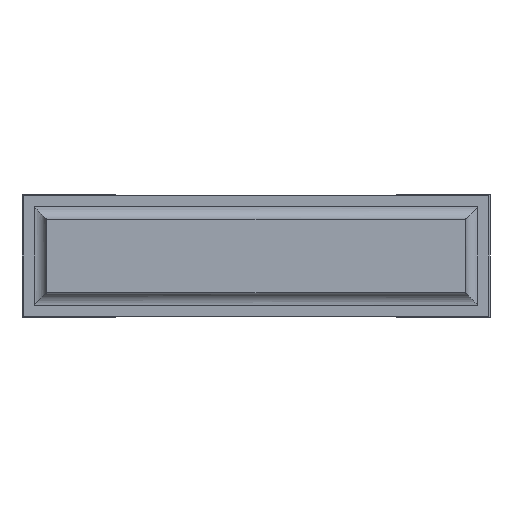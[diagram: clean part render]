
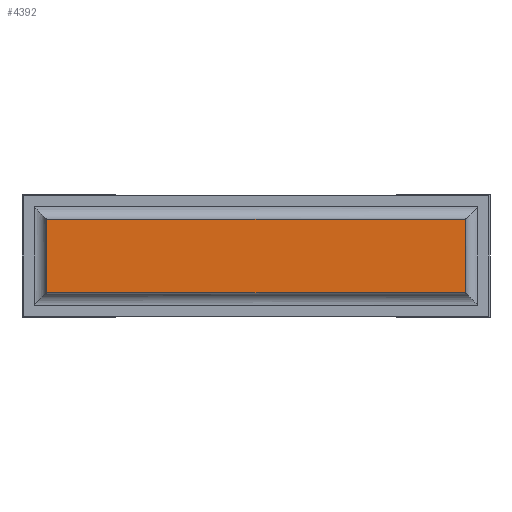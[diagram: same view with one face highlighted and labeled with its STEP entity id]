
A CAD part, front view. The second image highlights one B-rep face of the part: STEP entity #4392.
In plain terms, the highlighted planar face has unit normal (0, -1, 0).
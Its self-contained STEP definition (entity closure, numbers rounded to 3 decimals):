
#114=PLANE('',#4686);
#318=FACE_OUTER_BOUND('',#564,.T.);
#564=EDGE_LOOP('',(#3181,#3182,#3183,#3184));
#835=LINE('',#6360,#1397);
#860=LINE('',#6419,#1422);
#861=LINE('',#6421,#1423);
#862=LINE('',#6422,#1424);
#1397=VECTOR('',#5126,10.);
#1422=VECTOR('',#5179,10.);
#1423=VECTOR('',#5180,10.);
#1424=VECTOR('',#5181,10.);
#1975=VERTEX_POINT('',#6357);
#1976=VERTEX_POINT('',#6359);
#1996=VERTEX_POINT('',#6418);
#1997=VERTEX_POINT('',#6420);
#2429=EDGE_CURVE('',#1976,#1975,#835,.T.);
#2459=EDGE_CURVE('',#1975,#1996,#860,.T.);
#2460=EDGE_CURVE('',#1996,#1997,#861,.T.);
#2461=EDGE_CURVE('',#1997,#1976,#862,.T.);
#3181=ORIENTED_EDGE('',*,*,#2459,.T.);
#3182=ORIENTED_EDGE('',*,*,#2460,.T.);
#3183=ORIENTED_EDGE('',*,*,#2461,.T.);
#3184=ORIENTED_EDGE('',*,*,#2429,.T.);
#4392=ADVANCED_FACE('',(#318),#114,.T.);
#4686=AXIS2_PLACEMENT_3D('',#6417,#5177,#5178);
#5126=DIRECTION('',(0.,0.,-1.));
#5177=DIRECTION('center_axis',(0.,-1.,0.));
#5178=DIRECTION('ref_axis',(0.,0.,-1.));
#5179=DIRECTION('',(1.,0.,0.));
#5180=DIRECTION('',(0.,0.,1.));
#5181=DIRECTION('',(-1.,0.,0.));
#6357=CARTESIAN_POINT('',(0.1,0.,0.1));
#6359=CARTESIAN_POINT('',(0.1,0.,0.4));
#6360=CARTESIAN_POINT('',(0.1,0.,0.4));
#6417=CARTESIAN_POINT('Origin',(0.1,0.,0.25));
#6418=CARTESIAN_POINT('',(1.81,0.,0.1));
#6419=CARTESIAN_POINT('',(0.1,0.,0.1));
#6420=CARTESIAN_POINT('',(1.81,0.,0.4));
#6421=CARTESIAN_POINT('',(1.81,0.,0.1));
#6422=CARTESIAN_POINT('',(1.81,0.,0.4));
